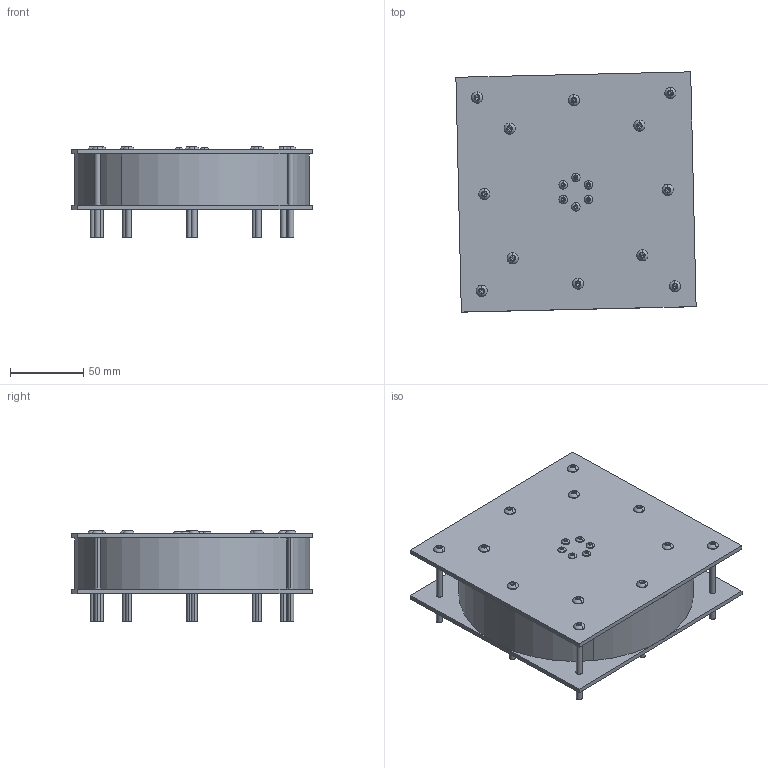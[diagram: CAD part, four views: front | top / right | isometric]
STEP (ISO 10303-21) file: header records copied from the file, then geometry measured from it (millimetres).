
FILE_DESCRIPTION (( 'STEP AP214' ), '1' );
FILE_NAME ('MoulageRoue.STEP', '2023-07-19T20:43:16', ( '' ), ( '' ), 'SwSTEP 2.0', 'SolidWorks 2022', '' );
FILE_SCHEMA (( 'AUTOMOTIVE_DESIGN' ));
Length unit declared in the file: millimetre
Products named in the file (8): MoulageRoue; TopMoule_D‚faut; socket button head screw_iso_ISO 7380 - M4 x 60 - 60N; socket button head screw_iso_ISO 7380 - M3 x 25 - 25N; CotéMoule_D‚faut; Anneau_DＧaut; BaseMoule_D‚faut; Roue_D‚faut
Assembly tree (22 placements, depth 2):
  MoulageRoue
    Roue_D‚faut
    BaseMoule_D‚faut
    Anneau_DＧaut
    TopMoule_D‚faut
    socket button head screw_iso_ISO 7380 - M3 x 25 - 25N  x6
    socket button head screw_iso_ISO 7380 - M4 x 60 - 60N  x12
  CotéMoule_D‚faut
Bounding box: 163.67 x 163.67 x 62.2 mm (x, y, z)
Volume: 400677 mm3; surface area: 175165.1 mm2
Topology: 22 solids, 22 shells, 708 faces, 1638 edges, 1000 vertices
Faces by surface type: plane 334, cylinder 182, cone 118, torus 38, sphere 36
Entity records: 8799 total; most frequent: DIRECTION 1604, CARTESIAN_POINT 1415, ORIENTED_EDGE 1348, EDGE_CURVE 674, AXIS2_PLACEMENT_3D 629, VERTEX_POINT 440, EDGE_LOOP 382, VECTOR 346
